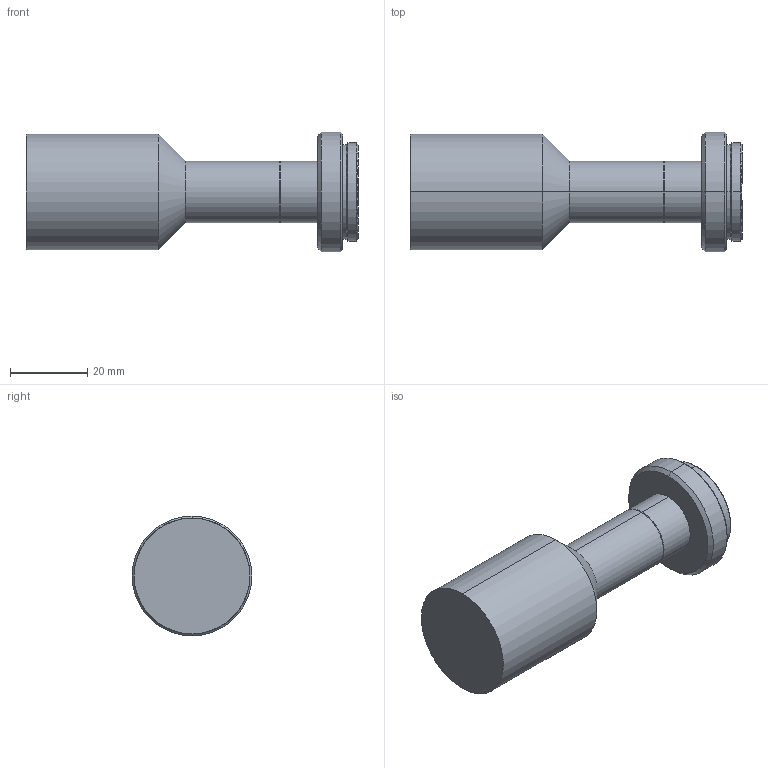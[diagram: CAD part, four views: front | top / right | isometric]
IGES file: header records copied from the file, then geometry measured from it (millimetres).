
Start section: SolidWorks IGES file using analytic representation for surfaces
Bounding box: 86 x 31 x 31 mm (x, y, z)
Surface area: 8574.2 mm2 (no closed solid volume)
Topology: 0 solids, 0 shells, 30 faces, 392 edges, 392 vertices
Faces by surface type: revolution 26, bspline 4
